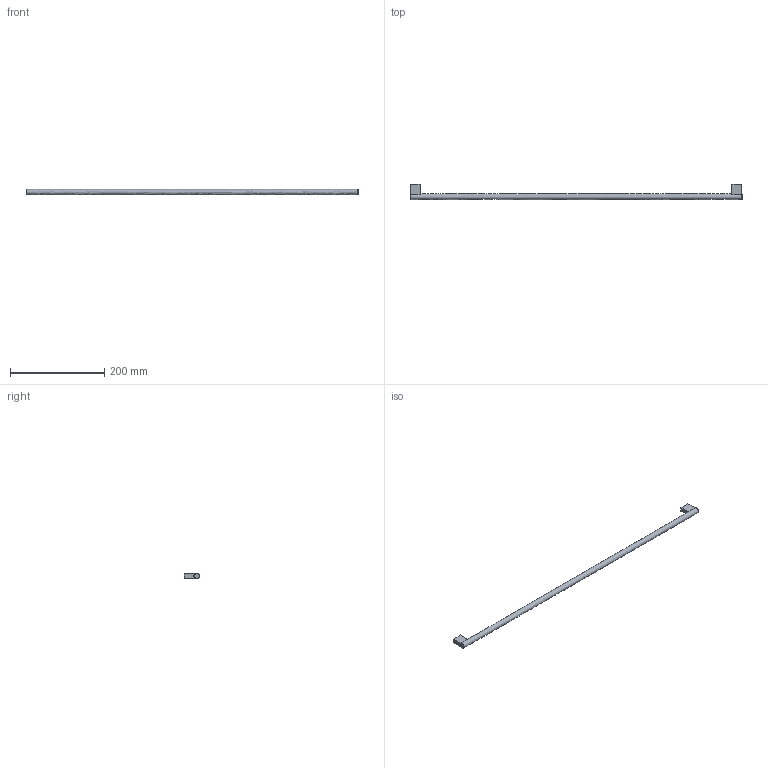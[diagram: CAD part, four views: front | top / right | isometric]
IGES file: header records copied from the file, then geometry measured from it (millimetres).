
Start section: Data from Parasolid IGES Translator 15.0.47, Copyright(c) 2006 Siemens P LM Software. All Rights Reserved.
Global section: file name:  115250.igs; native system:  By UGS Corp.; preprocessor: XPlus GENERIC/IGES 3.0; author: Noname; organization: Noname; date: 20140122.155642; units: millimetre
Bounding box: 706 x 32 x 12 mm (x, y, z)
Surface area: 29676.9 mm2 (no closed solid volume)
Topology: 0 solids, 0 shells, 19 faces, 80 edges, 76 vertices
Faces by surface type: extrusion 14, revolution 5
